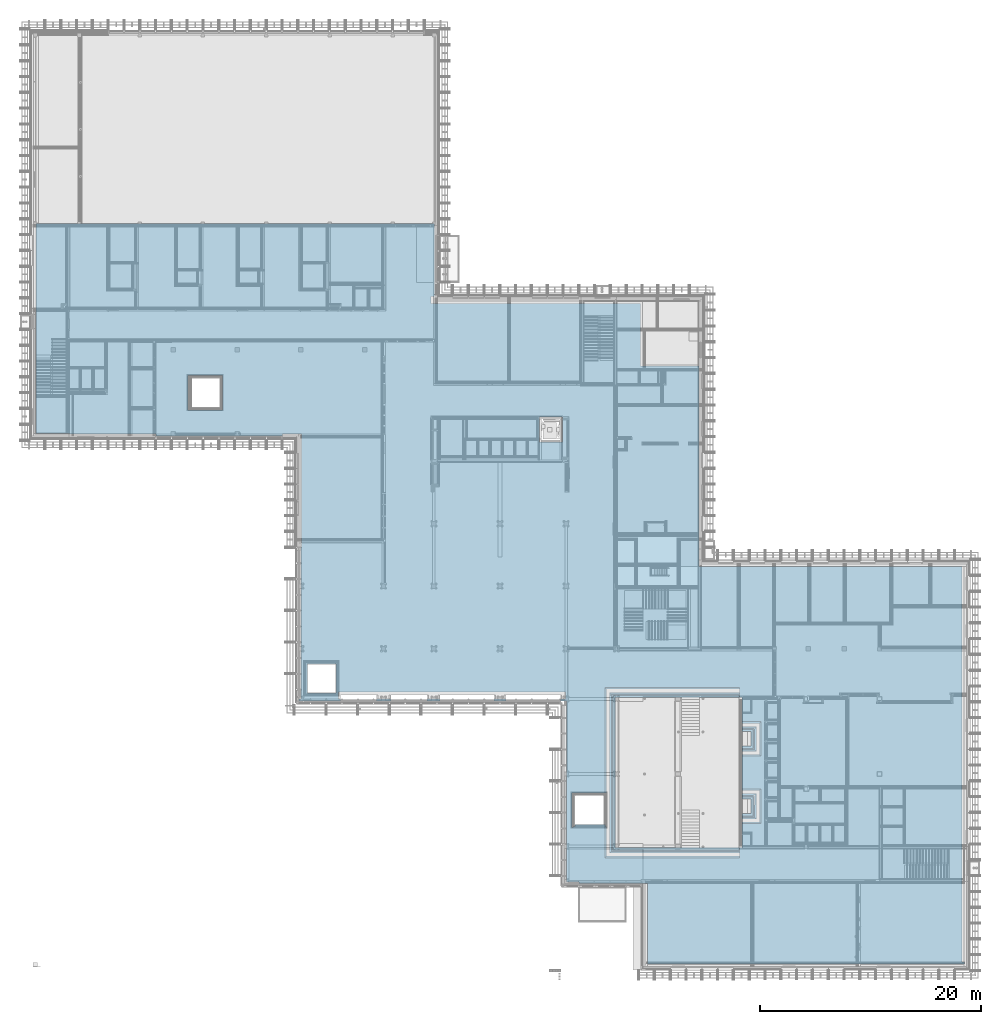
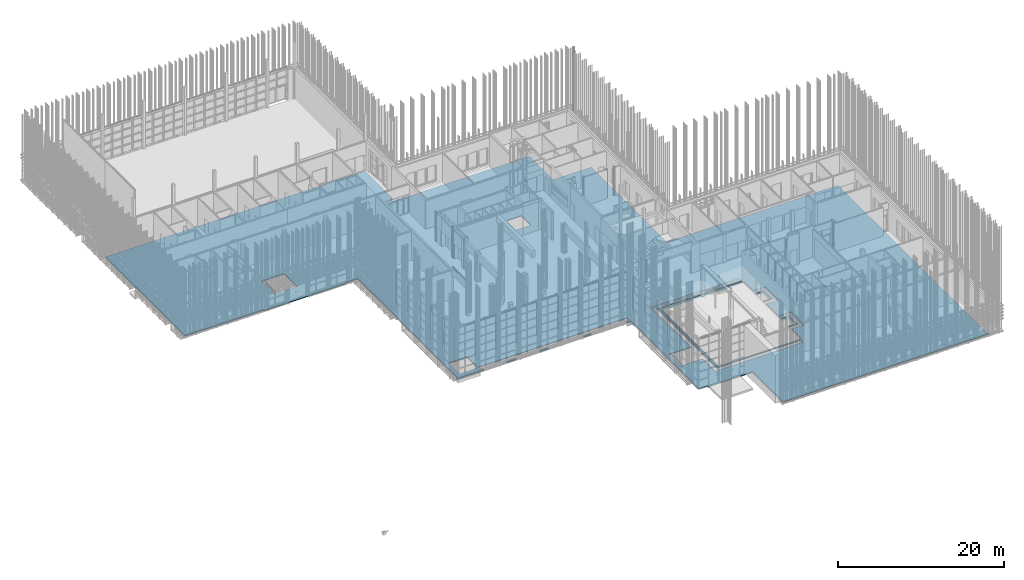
# One storey, part 169 of 260: 1 building element part, 1 element without a shape of its own.
"""IFC2X3 building model written with IfcOpenShell, lengths in millimetres."""

from ifc_helpers import new_model, entity, si_unit, converted_unit, derived_unit, money_unit, direction, frame, origin_with_axes, place, context, subcontext, project, spatial, faceted_brep, material, type_object, element, aggregate, save


model = new_model("IFC2X3")

# Units and contexts
model_context = context("Model", 3, precision=0.01, world=origin_with_axes(), true_north=direction((0.0, 1.0)))
body_context = subcontext(model_context, "Body", "Model", "MODEL_VIEW")
ifc_project = project(units=[si_unit("LENGTHUNIT", "METRE", prefix="MILLI"), si_unit("AREAUNIT", "SQUARE_METRE"), si_unit("VOLUMEUNIT", "CUBIC_METRE"), converted_unit("PLANEANGLEUNIT", "DEGREE", entity("IfcPlaneAngleMeasure", 0.0174532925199), si_unit("PLANEANGLEUNIT", "RADIAN"), dimensions=[0, 0, 0, 0, 0, 0, 0]), money_unit("EUR"), converted_unit("TIMEUNIT", "Year", entity("IfcTimeMeasure", 31556926.0), si_unit("TIMEUNIT", "SECOND"), dimensions=[0, 0, 1, 0, 0, 0, 0]), si_unit("MASSUNIT", "GRAM", prefix="KILO"), si_unit("THERMODYNAMICTEMPERATUREUNIT", "DEGREE_CELSIUS"), si_unit("LUMINOUSINTENSITYUNIT", "LUMEN"), si_unit("ENERGYUNIT", "JOULE", prefix="MEGA"), derived_unit("THERMALCONDUCTANCEUNIT", [(si_unit("POWERUNIT", "WATT"), 1), (si_unit("LENGTHUNIT", "METRE"), -1), (si_unit("THERMODYNAMICTEMPERATUREUNIT", "KELVIN"), -1)]), derived_unit("SPECIFICHEATCAPACITYUNIT", [(si_unit("ENERGYUNIT", "JOULE"), 1), (si_unit("MASSUNIT", "GRAM", prefix="KILO"), -1), (si_unit("THERMODYNAMICTEMPERATUREUNIT", "KELVIN"), -1)]), derived_unit("MASSDENSITYUNIT", [(si_unit("MASSUNIT", "GRAM", prefix="KILO"), 1), (si_unit("VOLUMEUNIT", "CUBIC_METRE"), -1)])], contexts=[model_context])

# Site, building, storey
site_placement = place(None, origin_with_axes())
site = spatial("IfcSite", under=ifc_project, at=site_placement, Name="Kolde pst 67a", CompositionType="ELEMENT")
building_placement = place(site_placement, origin_with_axes())
building = spatial("IfcBuilding", under=site, at=building_placement, Name="Riigigümnaasium", CompositionType="ELEMENT")
storey_placement = place(building_placement, origin_with_axes())
storey = spatial("IfcBuildingStorey", under=building, at=storey_placement, Name="1. korrus", CompositionType="ELEMENT", Elevation=0.0)

# Slab, building element part
slab_type = type_object("IfcSlabType", Name="PP-RBM-10/1_EPS 200 500", PredefinedType="NOTDEFINED")
slab_placement = place(storey_placement, frame((266.322784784, 67249.9971514, 0.0), z_axis=(0.0, 0.0, 1.0), x_axis=(1.0, 0.0, 0.0)))
slab = element("IfcSlab", 1, at=slab_placement, inside=storey, type_object=slab_type, Name="Põrand pinnasel", PredefinedType="NOTDEFINED")
ifc_material = material(Name="_TÄIDE - tasandus-/tugevduskiht, pinnasesse tambitud killustik E=80MPa, fr 16/32")
building_element_part_placement = place(slab_placement, origin_with_axes())
building_element_part = element("IfcBuildingElementPart", 2, at=building_element_part_placement, material=ifc_material, Name="_TÄIDE - tasandus-/tugevduskiht, pinnasesse tambitud killustik E=80MPa, fr 16/32", context=body_context, shape_type="Brep", body=[
    faceted_brep([(30816.9513198, -43209.7267557, -500.2), (30816.9513198, -43000.0581823, -500.2), (30940.6848933, -43000.0595942, -500.2), (30940.6848933, -43000.02631, -500.2), (31926.6750961, -43000.0263096, -500.2), (31926.6750961, -43000.0708452, -500.2), (32076.6750961, -43000.0725568, -500.2), (32076.6750961, -43000.0263096, -500.2), (32102.9415226, -43000.0263096, -500.2), (32102.9415226, -43209.7267557, -500.2), (30816.9513198, -43209.7267557, -350.2), (30816.9513198, -43000.0581823, -350.2), (30940.6848933, -43000.0595942, -350.2), (30940.6848933, -43000.0263021, -350.2), (31926.6750961, -43000.0263021, -350.2), (31926.6750961, -43000.0708452, -350.2), (32076.6750961, -43000.0725568, -350.2), (32076.6750961, -43000.0263021, -350.2), (32102.9415226, -43000.0263021, -350.2), (32102.9415226, -43209.7267557, -350.2)], [[[0, 1, 2, 3, 4, 5, 6, 7, 8, 9]], [[1, 0, 10, 11]], [[2, 1, 11, 12]], [[2, 12, 13, 3]], [[4, 3, 13, 14]], [[15, 5, 4, 14]], [[6, 5, 15, 16]], [[6, 16, 17, 7]], [[8, 7, 17, 18]], [[19, 9, 8, 18]], [[0, 9, 19, 10]], [[11, 10, 19, 18, 17, 16, 15, 14, 13, 12]]]),
    faceted_brep([(23799.9457899, -43209.7267572, -500.2), (27557.7759921, -43209.7267572, -500.2), (27557.7759921, -43209.7267572, -350.2), (23799.9457899, -43209.7267572, -350.2), (23799.9460972, -42999.9781126, -500.2), (23973.6799494, -42999.980095, -500.2), (23973.6799494, -29299.5005252, -500.2), (23999.9463759, -29299.500562, -500.2), (23999.9463759, -19050.0166275, -500.2), (22288.5650026, -19050.0163206, -500.2), (22288.5650026, -19210.0163206, -500.2), (10868.5385943, -19210.0163206, -500.2), (10868.5385943, -19050.0164764, -500.2), (2999.88406448, -19050.0165838, -500.2), (2999.88406628, -19009.9992035, -500.2), (0.0, -19010.7371507, -500.2), (0.0, 0.0, -500.2), (36039.9429015, 0.0, -500.2), (36039.9416692, -6609.939523, -500.2), (35713.7338936, -6609.939523, -500.2), (35713.7338936, -7209.939523, -500.2), (54687.6592908, -7209.939523, -500.2), (54687.6592908, -12882.9970931, -500.2), (54687.6592908, -12892.9970931, -500.2), (59999.9377357, -12892.9970931, -500.2), (59999.9377357, -31009.9974516, -500.2), (83773.7339872, -31009.9974516, -500.2), (83773.7339872, -66810.0545954, -500.2), (83999.9167207, -66810.0545954, -500.2), (83999.9167207, -67009.9971514, -500.2), (55329.9241436, -67009.9971514, -500.2), (55329.9251795, -59729.9852703, -500.2), (49105.2284207, -59729.9962674, -500.2), (49105.2303604, -59560.0076119, -500.2), (47983.4761046, -59559.9948118, -500.2), (47983.6626713, -43209.9991185, -500.2), (47799.9291214, -43209.997022, -500.2), (47436.9477703, -43209.9971514, -500.2), (47436.9477703, -43000.0263045, -500.2), (47902.308394, -43000.0263043, -500.2), (47902.308394, -42400.2966909, -500.2), (27368.5095656, -42400.2966951, -500.2), (27368.5095656, -43000.0263112, -500.2), (27557.7759921, -43000.0263111, -500.2), (52419.9377639, -56470.0352098, -500.2), (63889.4805108, -56470.0352098, -500.2), (63889.4805108, -54145.6599735, -500.2), (65439.3150862, -54145.6203249, -500.2), (65439.2299235, -51314.3733249, -500.2), (63889.4803814, -51314.4130564, -500.2), (63889.4798288, -48045.5734855, -500.2), (65439.1317188, -48045.5269608, -500.2), (65439.0466277, -45214.3161328, -500.2), (63889.4797546, -45214.3626397, -500.2), (63889.4805108, -42900.0006175, -500.2), (52419.9377639, -42900.0006175, -500.2), (63641.1735702, -56811.3980973, -500.195766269), (52052.3097143, -56811.4021149, -500.195872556), (52052.3097143, -42558.6301194, -500.195872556), (63505.8254222, -42558.6325234, -500.198297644), (63507.7266317, -42558.6325233, -500.198297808), (63507.7549949, -42558.6329141, -500.198690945), (63508.4260955, -42558.6323427, -500.197786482), (63508.4423642, -42558.6328026, -500.198686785), (63508.46441, -42558.6329141, -500.19869098), (63508.4992122, -42558.6324964, -500.198326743), (63508.5190036, -42558.6322722, -500.197724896), (63663.580611, -42558.6338685, -500.199621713), (63663.580611, -42134.370178, -500.2), (51628.0444757, -42134.37018, -500.2), (51628.0444757, -57235.6620487, -500.2), (63663.580611, -57235.6620562, -500.2), (63663.580611, -56811.3968165, -500.195872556), (45534.9291024, -17479.9971915, -500.2), (45534.9291024, -19779.9971915, -500.2), (47634.9291054, -19779.9971915, -500.2), (47634.9291054, -17479.9971915, -500.2), (48475.6670287, -54648.0161939, -500.2), (48485.6670287, -54648.0161939, -500.2), (48485.6670287, -54638.0161939, -500.2), (48585.6670287, -54638.0161939, -500.2), (48585.6670287, -54538.0161939, -500.2), (48588.6670287, -54538.0161939, -500.2), (48588.6670287, -54535.0161939, -500.2), (48748.6670287, -54535.0161939, -500.2), (48748.6670287, -51775.0161939, -500.2), (48774.9334552, -51775.0161939, -500.2), (48774.9334552, -54375.0161939, -500.2), (51348.6670287, -54375.0161939, -500.2), (51374.9334552, -54375.0161939, -500.2), (51508.6670287, -54375.0161939, -500.2), (51508.6670287, -54535.0161939, -500.2), (51511.6670287, -54535.0161939, -500.2), (51511.6670287, -54538.0161939, -500.2), (51611.6670287, -54538.0161939, -500.2), (51611.6670287, -54638.0161939, -500.2), (51621.6670287, -54638.0161939, -500.2), (51621.6670287, -51502.0161939, -500.2), (51611.6670287, -51502.0161939, -500.2), (48485.6670287, -51502.0161939, -500.2), (48475.6670287, -51502.0161939, -500.2), (24550.0004112, -39859.9971514, -500.2), (24550.0004112, -42459.9971514, -500.2), (27150.0004112, -42459.9971514, -500.2), (27150.0004112, -39859.9971514, -500.2), (13725.6777342, -16888.0095232, -500.2), (13735.6777342, -16888.0095232, -500.2), (16871.6777342, -16888.0095232, -500.2), (16871.6777342, -16878.0095232, -500.2), (16871.6777342, -13742.0095232, -500.2), (16861.6777342, -13742.0095232, -500.2), (13735.6777342, -13742.0095232, -500.2), (13725.6777342, -13742.0095232, -500.2), (27557.7759921, -43000.0263019, -350.2), (27368.5095656, -43000.0263019, -350.2), (27368.5095656, -42400.296694, -350.2), (47902.308394, -42400.2966898, -350.2), (47902.308394, -43000.0263043, -350.2), (47436.9477703, -43000.0263029, -350.2), (47436.9477703, -43209.9971514, -350.2), (47799.9291214, -43209.997022, -350.2), (47983.6626713, -43209.9991185, -350.2), (47983.4761046, -59559.9948118, -350.2), (49105.2303604, -59560.0076119, -350.2), (49105.2284207, -59729.9962674, -350.2), (55329.9251795, -59729.9852703, -350.2), (55329.9241436, -67009.9971514, -350.2), (83999.9167207, -67009.9971514, -350.2), (83999.9167207, -66810.0545954, -350.2), (83773.7339872, -66810.0545954, -350.2), (83773.7339872, -31009.9974516, -350.2), (59999.9377357, -31009.9974516, -350.2), (59999.9377357, -12892.9970931, -350.2), (54687.6592908, -12892.9970931, -350.2), (54687.6592908, -12882.9970931, -350.2), (54687.6592908, -7209.939523, -350.2), (35713.7338936, -7209.939523, -350.2), (35713.7338936, -6609.939523, -350.2), (36039.9416692, -6609.939523, -350.2), (36039.9429015, 0.0, -350.2), (0.0, 0.0, -350.2), (0.0, -19010.7371507, -350.2), (2999.88406628, -19009.9992035, -350.2), (2999.88406448, -19050.0165838, -350.2), (10868.5385943, -19050.0164764, -350.2), (10868.5385943, -19210.0163206, -350.2), (22288.5650026, -19210.0163206, -350.2), (22288.5650026, -19050.0163206, -350.2), (23999.9463759, -19050.0166275, -350.2), (23999.9463759, -29299.500562, -350.2), (23973.6799494, -29299.5005252, -350.2), (23973.6799494, -42999.980095, -350.2), (23799.9460972, -42999.9781126, -350.2), (63663.580611, -56961.3396845, -350.2), (51902.3668468, -56961.3396781, -350.2), (51902.3668479, -42408.6925531, -350.2), (63663.580611, -42408.6925498, -350.2), (63663.580611, -42899.9970244, -350.2), (63889.4805108, -42900.0006175, -350.2), (63889.4798036, -45064.3626399, -350.2), (65376.9100877, -45064.3179896, -350.200000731), (65589.0421234, -45064.3116254, -350.199995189), (65589.136231, -48195.5224628, -350.199995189), (65377.0041952, -48195.5288306, -350.199995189), (63889.4798542, -48195.5734838, -350.2), (63889.480356, -51164.4130567, -350.2), (65377.0933798, -51164.3749098, -350.200000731), (65589.2254156, -51164.3694738, -350.199995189), (65589.3196021, -54295.616493, -350.199995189), (65377.1875663, -54295.6219223, -350.200000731), (63889.4805108, -54295.6599732, -350.2), (63889.4805108, -56470.0352098, -350.2), (63663.580611, -56470.0352098, -350.2), (45534.9291024, -19779.9971915, -350.2), (45534.9291024, -17479.9971915, -350.2), (47634.9291054, -17479.9971915, -350.2), (47634.9291054, -19779.9971915, -350.2), (48485.6670287, -54648.0161939, -350.2), (48475.6670287, -54648.0161939, -350.2), (48475.6670287, -51502.0161939, -350.2), (48485.6670287, -51502.0161939, -350.2), (51478.0444746, -51502.0161939, -350.2), (51478.0444746, -41984.3701836, -350.199998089), (51690.1765105, -41984.3701836, -350.199998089), (63663.580611, -41984.3701781, -350.200000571), (63663.580611, -42196.5022139, -350.200000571), (63663.580611, -42408.6342468, -350.2), (51902.3085443, -42408.6342472, -350.2), (51902.3085439, -56961.397987, -350.2), (63663.580611, -56961.3979874, -350.2), (63663.580611, -57173.5300203, -350.200000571), (63663.580611, -57385.6620561, -350.200000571), (51690.1765105, -57385.6620506, -350.199998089), (51478.0444746, -57385.6620506, -350.199998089), (51478.0444746, -54375.0161939, -350.199998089), (51374.9334552, -54375.0161939, -350.2), (51348.6670287, -54375.0161939, -350.2), (48774.9334552, -54375.0161939, -350.2), (48774.9334552, -51775.0161939, -350.2), (48748.6670287, -51775.0161939, -350.2), (48748.6670287, -54535.0161939, -350.2), (48588.6670287, -54535.0161939, -350.2), (48588.6670287, -54538.0161939, -350.2), (48585.6670287, -54538.0161939, -350.2), (48585.6670287, -54638.0161939, -350.2), (48485.6670287, -54638.0161939, -350.2), (24550.0004112, -42459.9971514, -350.2), (24550.0004112, -39859.9971514, -350.2), (27150.0004112, -39859.9971514, -350.2), (27150.0004112, -42459.9971514, -350.2), (13735.6777342, -16888.0095232, -350.2), (13725.6777342, -16888.0095232, -350.2), (13725.6777342, -13742.0095232, -350.2), (13735.6777342, -13742.0095232, -350.2), (16861.6777342, -13742.0095232, -350.2), (16871.6777342, -13742.0095232, -350.2), (16871.6777342, -16878.0095232, -350.2), (16871.6777342, -16888.0095232, -350.2), (52419.9377639, -56470.0384111, -500.140794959), (63663.580611, -56470.0416123, -500.140794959), (52419.9377639, -42899.9956197, -500.140794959), (63663.580611, -42899.9906219, -500.140794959), (52419.9377639, -42900.0006175, -350.2), (52419.9377639, -56470.0352098, -350.2), (52052.332482, -56811.374048, -500.140794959), (63663.580611, -56811.3740488, -500.140794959), (52052.3324821, -42558.6581862, -500.140794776), (52393.6649184, -42558.6581862, -500.140794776), (63663.580611, -42558.6581855, -500.140794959), (63663.580611, -42557.8697317, -499.435484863), (63663.580611, -42557.1613936, -498.726869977), (63663.580611, -42556.8759594, -498.441324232), (63663.580611, -42556.8340177, -498.399366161), (51611.6670287, -51502.0161939, -483.822552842), (51621.6670287, -51502.0161939, -493.822552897), (51621.6670287, -54638.0161939, -493.822552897), (51611.6670287, -54638.0161939, -483.822552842), (51611.6670287, -54538.0161939, -483.822552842), (51511.6670287, -54538.0161939, -383.822552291), (51511.6670287, -54535.0161939, -383.822552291), (51508.6670287, -54535.0161939, -380.822552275), (51508.6670287, -54375.0161939, -380.822552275), (63641.1735702, -56811.3980973, -500.195766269), (52052.332482, -56811.4571925, -500.140794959), (52093.7120911, -56911.5165201, -400.040775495), (51952.190006, -56911.5165227, -400.040772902), (52050.6238481, -56813.0879114, -498.509412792), (52050.1328662, -42556.4539271, -498.018255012), (51952.1492523, -42458.4749572, -400.000004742), (51952.1900059, -42600.0377907, -400.040772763), (51952.1492523, -42691.6723651, -400.000004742), (51952.1492523, -42599.9970227, -400.000004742), (63505.8254222, -42558.6325234, -500.198297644), (63509.5618512, -42557.6235007, -499.188946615), (63663.580611, -42691.672371, -400.000003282), (63663.580611, -42600.0377946, -400.040775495), (63663.580611, -42599.997022, -400.000002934), (63663.580611, -56770.0352098, -400.0), (63663.580611, -56769.9944359, -400.040775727), (63663.580611, -56678.3598632, -400.000003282), (52393.6649184, -56470.0416123, -500.140794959), (52393.6649184, -42899.9906219, -500.140794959), (52393.6717284, -42899.9970244, -350.2), (52393.6717964, -56470.0352098, -350.2), (52093.7187549, -42600.0377907, -400.040772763), (52093.6713204, -42691.6723651, -400.000004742), (52093.6713209, -42599.9970191, -400.0), (52393.6691713, -42691.6723651, -400.000004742), (52185.3466676, -42691.6723651, -400.000004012), (52185.3466676, -42599.9970224, -400.000003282), (52393.6713209, -42599.9970191, -400.0), (52093.6713209, -56770.0352151, -400.0), (52093.7120945, -56769.9944396, -400.040776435), (52393.6691696, -56769.9944396, -400.040776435), (52185.3466676, -56770.0352118, -400.000003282), (52393.6691713, -56678.3598691, -400.000004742), (52185.3466676, -56678.3598691, -400.000004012)], [[[0, 1, 2, 3]], [[1, 0, 4, 5, 6, 7, 8, 9, 10, 11, 12, 13, 14, 15, 16, 17, 18, 19, 20, 21, 22, 23, 24, 25, 26, 27, 28, 29, 30, 31, 32, 33, 34, 35, 36, 37, 38, 39, 40, 41, 42, 43], [44, 45, 46, 47, 48, 49, 50, 51, 52, 53, 54, 55], [56, 57, 58, 59, 60, 61, 62, 63, 64, 65, 66, 67, 68, 69, 70, 71, 72], [73, 74, 75, 76], [77, 78, 79, 80, 81, 82, 83, 84, 85, 86, 87, 88, 89, 90, 91, 92, 93, 94, 95, 96, 97, 98, 99, 100], [101, 102, 103, 104], [105, 106, 107, 108, 109, 110, 111, 112]], [[2, 1, 43, 113]], [[3, 2, 113, 114, 115, 116, 117, 118, 119, 120, 121, 122, 123, 124, 125, 126, 127, 128, 129, 130, 131, 132, 133, 134, 135, 136, 137, 138, 139, 140, 141, 142, 143, 144, 145, 146, 147, 148, 149, 150, 151, 152], [153, 154, 155, 156, 157, 158, 159, 160, 161, 162, 163, 164, 165, 166, 167, 168, 169, 170, 171, 172], [173, 174, 175, 176], [177, 178, 179, 180, 181, 182, 183, 184, 185, 186, 187, 188, 189, 190, 191, 192, 193, 194, 195, 196, 197, 198, 199, 200, 201, 202, 203, 204, 205], [206, 207, 208, 209], [210, 211, 212, 213, 214, 215, 216, 217]], [[0, 3, 152, 4]], [[5, 4, 152, 151]], [[6, 5, 151, 150]], [[7, 6, 150, 149]], [[8, 7, 149, 148]], [[9, 8, 148, 147]], [[10, 9, 147, 146]], [[11, 10, 146, 145]], [[12, 11, 145, 144]], [[13, 12, 144, 143]], [[14, 13, 143, 142]], [[15, 14, 142, 141]], [[15, 141, 140, 16]], [[17, 16, 140, 139]], [[18, 17, 139, 138]], [[19, 18, 138, 137]], [[20, 19, 137, 136]], [[20, 136, 135, 21]], [[22, 21, 135, 134]], [[23, 22, 134, 133]], [[24, 23, 133, 132]], [[25, 24, 132, 131]], [[25, 131, 130, 26]], [[129, 27, 26, 130]], [[28, 27, 129, 128]], [[29, 28, 128, 127]], [[126, 30, 29, 127]], [[31, 30, 126, 125]], [[32, 31, 125, 124]], [[33, 32, 124, 123]], [[34, 33, 123, 122]], [[34, 122, 121, 35]], [[36, 35, 121, 120]], [[37, 36, 120, 119]], [[38, 37, 119, 118]], [[39, 38, 118, 117]], [[39, 117, 116, 40]], [[115, 41, 40, 116]], [[114, 42, 41, 115]], [[43, 42, 114, 113]], [[44, 218, 219, 172, 171, 45]], [[46, 45, 171, 170]], [[47, 46, 170, 169, 168]], [[47, 168, 167, 48]], [[165, 49, 48, 167, 166]], [[50, 49, 165, 164]], [[50, 164, 163, 162, 51]], [[51, 162, 161, 52]], [[159, 53, 52, 161, 160]], [[53, 159, 158, 54]], [[220, 55, 54, 158, 157, 221]], [[218, 44, 55, 220, 222, 223]], [[224, 57, 56, 72, 225]], [[57, 224, 226, 58]], [[60, 59, 58, 226, 227, 228, 66, 65, 64, 63, 62, 61]], [[228, 67, 66]], [[68, 67, 229, 230, 231, 232, 186, 185, 184]], [[69, 68, 184, 183, 182]], [[193, 70, 69, 182, 181, 233, 234, 235, 236, 237, 238, 239, 240, 241, 194]], [[71, 70, 193, 192, 191]], [[72, 71, 191, 190, 189]], [[74, 73, 174, 173]], [[75, 74, 173, 176]], [[76, 75, 176, 175]], [[73, 76, 175, 174]], [[78, 77, 178, 177]], [[79, 78, 177, 205]], [[80, 79, 205, 204]], [[81, 80, 204, 203]], [[82, 81, 203, 202]], [[83, 82, 202, 201]], [[84, 83, 201, 200]], [[84, 200, 199, 85]], [[86, 85, 199, 198]], [[197, 87, 86, 198]], [[88, 87, 197, 196]], [[89, 88, 196, 195]], [[90, 89, 195, 194, 241]], [[91, 90, 241, 240]], [[92, 91, 240, 239]], [[93, 92, 239, 238]], [[94, 93, 238, 237]], [[95, 94, 237, 236]], [[96, 95, 236, 235]], [[97, 96, 235, 234]], [[98, 97, 234, 233]], [[99, 98, 233, 181, 180]], [[100, 99, 180, 179]], [[178, 77, 100, 179]], [[102, 101, 207, 206]], [[103, 102, 206, 209]], [[104, 103, 209, 208]], [[101, 104, 208, 207]], [[106, 105, 211, 210]], [[107, 106, 210, 217]], [[107, 217, 216, 108]], [[109, 108, 216, 215]], [[110, 109, 215, 214]], [[111, 110, 214, 213]], [[112, 111, 213, 212]], [[211, 105, 112, 212]], [[242, 243, 244, 245, 154, 153, 72]], [[245, 246, 247, 248, 155, 154], [249, 250, 251]], [[247, 252, 253, 232, 156, 155, 248]], [[221, 157, 156, 232, 231, 230, 229, 67, 228], [254, 255, 256]], [[225, 72, 153, 172, 219], [257, 258, 259]], [[252, 247, 187, 186, 232, 253]], [[246, 188, 187, 247]], [[243, 242, 72, 189, 188, 246]], [[218, 260, 261, 220, 221, 228, 227, 226, 224, 225, 219]], [[220, 261, 262, 222]], [[263, 223, 222, 262]], [[260, 218, 223, 263]], [[244, 243, 246, 245]], [[249, 264, 265, 250]], [[250, 265, 266, 251]], [[264, 249, 251, 266]], [[267, 268, 264, 255, 254]], [[264, 266, 269, 270, 256, 255]], [[268, 267, 254, 256, 270, 269]], [[271, 272, 273, 258, 257, 274]], [[273, 275, 259, 258]], [[276, 274, 257, 259, 275]], [[260, 263, 262, 261]], [[272, 271, 265, 264]], [[271, 274, 276, 268, 269, 266, 265]], [[276, 272, 264, 268]], [[273, 272, 276, 275]]]),
    faceted_brep([(35366.9477703, -43000.1101015, -500.2), (35366.9477703, -43209.7267557, -500.2), (35366.9477703, -43209.7267557, -350.2), (35366.9477703, -43000.1101015, -350.2), (35490.6813438, -43000.1115134, -500.2), (35490.6813438, -43000.0263085, -500.2), (36356.6715466, -43000.0263082, -500.2), (36356.6715466, -43000.1213951, -500.2), (36506.6715466, -43000.1231067, -500.2), (36506.6715466, -43000.0263081, -500.2), (36532.9379731, -43000.0263081, -500.2), (36532.9379731, -43209.7267557, -500.2), (36532.9379731, -43209.7267557, -350.2), (36532.9379731, -43000.0263023, -350.2), (36506.6715466, -43000.0263023, -350.2), (36506.6715466, -43000.1231067, -350.2), (36356.6715466, -43000.1213951, -350.2), (36356.6715466, -43000.0263023, -350.2), (35490.6813438, -43000.0263023, -350.2), (35490.6813438, -43000.1115134, -350.2)], [[[0, 1, 2, 3]], [[1, 0, 4, 5, 6, 7, 8, 9, 10, 11]], [[2, 1, 11, 12]], [[3, 2, 12, 13, 14, 15, 16, 17, 18, 19]], [[4, 0, 3, 19]], [[4, 19, 18, 5]], [[6, 5, 18, 17]], [[16, 7, 6, 17]], [[7, 16, 15, 8]], [[9, 8, 15, 14]], [[10, 9, 14, 13]], [[11, 10, 13, 12]]]),
    faceted_brep([(42530.9379731, -43209.9971514, -500.2), (41436.9477703, -43209.9971514, -500.2), (41436.9477703, -43000.1793652, -500.2), (41560.6813438, -43000.1807771, -500.2), (41560.6813438, -43000.0263064, -500.2), (42354.6715466, -43000.0263062, -500.2), (42354.6715466, -43000.1898371, -500.2), (42504.6715466, -43000.1915488, -500.2), (42504.6715466, -43000.0263061, -500.2), (42530.9379731, -43000.0263061, -500.2), (42530.9379731, -43209.9971514, -350.2), (41436.9477703, -43209.9971514, -350.2), (41436.9477703, -43000.1793652, -350.2), (41560.6813438, -43000.1807771, -350.2), (41560.6813438, -43000.0263026, -350.2), (42354.6715466, -43000.0263026, -350.2), (42354.6715466, -43000.1898371, -350.2), (42504.6715466, -43000.1915488, -350.2), (42504.6715466, -43000.0263026, -350.2), (42530.9379731, -43000.0263026, -350.2)], [[[0, 1, 2, 3, 4, 5, 6, 7, 8, 9]], [[1, 0, 10, 11]], [[2, 1, 11, 12]], [[3, 2, 12, 13]], [[4, 3, 13, 14]], [[5, 4, 14, 15]], [[6, 5, 15, 16]], [[7, 6, 16, 17]], [[8, 7, 17, 18]], [[9, 8, 18, 19]], [[0, 9, 19, 10]], [[11, 10, 19, 18, 17, 16, 15, 14, 13, 12]]]),
    faceted_brep([(63889.4796994, -47279.9530444, -500.140792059), (63889.4796994, -47279.9474523, -500.2), (63889.4797571, -47621.308249, -500.195869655), (63889.4797571, -47621.2854809, -500.140792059), (64673.4882687, -47279.9238706, -500.140792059), (64699.838281, -47279.923078, -500.140791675), (64699.838281, -47279.923078, -500.2), (63889.4795044, -45979.9902948, -500.2), (63889.4796159, -45638.6278769, -500.195869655), (65014.7994448, -45638.5940974, -500.195869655), (65014.8537324, -47621.2797626, -500.195872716), (64699.7991789, -45979.9659208, -500.2), (65014.8309625, -47621.2516995, -500.140792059), (63889.4796159, -45638.6506449, -500.140792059), (63889.4795044, -45979.9830815, -500.140792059), (64673.4492021, -45980.0722648, -500.140792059), (64699.7991789, -45980.0753894, -500.140792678), (65014.7713763, -45638.6168647, -500.140795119), (64673.4389401, -45638.627112, -500.140792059)], [[[0, 1, 2, 3]], [[1, 0, 4, 5, 6]], [[7, 8, 9, 10, 2, 1, 6, 11]], [[3, 2, 10, 12]], [[13, 14, 15, 16, 5, 4, 0, 3, 12, 17, 18]], [[6, 5, 16, 11]], [[7, 14, 13, 8]], [[8, 13, 18, 17, 9]], [[12, 10, 9, 17]], [[14, 7, 11, 16, 15]]]),
    faceted_brep([(63889.4797501, -47579.9466432, -399.999997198), (63889.4797346, -47488.2712954, -400.000000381), (63889.4797501, -47579.9058692, -400.040772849), (64881.8155359, -47579.9168531, -400.000003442), (64881.8127806, -47488.2415134, -400.000002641), (64673.4902771, -47488.2513656, -400.000003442), (64673.4930327, -47579.8823373, -400.040773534), (64973.4501074, -47579.8733342, -400.040775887), (64973.4908825, -47579.9141031, -400.000001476), (64973.4337822, -45679.9569465, -400.000003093), (64881.7584333, -45679.9596987, -400.000003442), (64881.7611885, -45771.6350383, -400.000002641), (64973.393011, -45679.9977155, -400.040776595), (63889.4796024, -45680.0302577, -400.040772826), (63889.4796024, -45679.9894838, -399.999997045), (64673.43378, -45679.9659511, -399.999996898), (64673.4359326, -45680.006725, -400.040772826), (63889.4795725, -45771.6646071, -400.000000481), (64673.4365353, -45771.6412977, -400.000000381)], [[[0, 1, 2]], [[1, 0, 3, 4, 5]], [[2, 1, 5, 6]], [[0, 2, 6, 7, 8, 3]], [[4, 3, 8, 9, 10, 11]], [[6, 5, 4, 7]], [[8, 7, 12, 9]], [[13, 14, 15, 10, 9, 12, 16]], [[14, 17, 18, 11, 10, 15]], [[7, 4, 11, 12]], [[13, 17, 14]], [[18, 16, 12, 11]], [[17, 13, 16, 18]]]),
    faceted_brep([(63889.4797824, -47771.2511137, -350.2), (63889.4797571, -47621.308249, -500.195869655), (63889.4797824, -47771.3094168, -350.2), (65164.8011061, -47771.2128249, -350.2), (65114.9764529, -47721.3911681, -400.040770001), (64973.4543701, -47721.3954163, -400.040770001), (65014.8309663, -47621.3348409, -500.140795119), (63893.0854428, -47621.3093913, -500.195693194), (65017.9701485, -47624.3958991, -497.078397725), (65018.103753, -47624.5294342, -496.944804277), (65164.8594091, -47771.2711349, -350.2), (65164.7908062, -45488.5884244, -350.2), (63889.4796649, -45488.626709, -350.2), (63889.4796649, -45488.6850121, -350.2), (65164.7325043, -45488.6467375, -350.2), (65114.910846, -45538.4713859, -400.040770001), (65026.8472334, -45626.535608, -488.138161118), (63889.4796159, -45638.6278769, -500.195869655), (65009.8091841, -45626.5357632, -488.137804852), (64973.3887576, -45538.4756395, -400.040776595)], [[[0, 1, 2]], [[1, 0, 3, 4, 5, 6, 7]], [[2, 1, 7, 6, 8, 9, 10]], [[0, 2, 10, 11, 12, 13, 14, 3]], [[9, 4, 3, 14, 15, 16]], [[6, 5, 4, 9, 8]], [[10, 9, 16, 11]], [[17, 12, 11, 16, 18]], [[17, 13, 12]], [[13, 17, 18, 19, 15, 14]], [[18, 16, 15, 19]]]),
    faceted_brep([(63889.4805108, -53721.3962864, -500.199618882), (63889.4805108, -53871.3959042, -350.2), (63889.4805108, -53871.3376011, -350.2), (63905.5626644, -53721.3955275, -500.198778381), (63909.334933, -53721.3953495, -500.198581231), (63910.1087268, -53721.3953129, -500.19854079), (65010.9388809, -53731.2819049, -490.281307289), (65025.0207308, -53731.3538187, -490.209003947), (65088.0765764, -53794.3986493, -427.163879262), (65165.042772, -53871.363281, -350.2), (63889.4804278, -51588.6771258, -350.2), (63889.4804278, -51588.7354289, -350.2), (65164.9158057, -51588.7027272, -350.2), (65164.9844666, -53871.3049708, -350.2), (65164.9741088, -51588.6444165, -350.2), (65115.1598122, -53821.4830927, -400.040770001), (64973.6377238, -53821.4867071, -400.040776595), (65027.3923562, -51735.1890519, -487.776500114), (65027.4291746, -51730.2014503, -487.739531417), (65027.435953, -51726.1855788, -487.732588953), (63889.4804531, -51738.6782939, -500.195869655), (65009.9924416, -51726.5909599, -488.137687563), (64973.5720613, -51638.5307941, -400.040776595), (65115.0941498, -51638.5271597, -400.040770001)], [[[0, 1, 2]], [[0, 3, 4, 5, 6, 7, 8, 9, 1]], [[10, 11, 12, 13, 2, 1, 9, 14]], [[3, 0, 2, 13, 15, 16, 6, 5, 4]], [[6, 16, 15, 7]], [[8, 7, 17, 18, 19, 14, 9]], [[11, 10, 20]], [[11, 20, 21, 22, 23, 12]], [[7, 15, 13, 12, 23, 19, 18, 17]], [[20, 10, 14, 19, 21]], [[22, 21, 19, 23]]]),
    faceted_brep([(63889.4805108, -53588.3577827, -400.000000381), (63889.4805108, -53680.0331294, -399.999997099), (64673.6742383, -53680.0130718, -399.999997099), (64881.9988916, -53680.0077424, -400.000003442), (64881.996134, -53588.3324027, -400.000002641), (64673.6714807, -53588.3377252, -400.000000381), (63889.4805108, -53679.9923555, -400.040772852), (64673.6763884, -53679.9722979, -400.040772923), (64973.6334668, -53679.9646311, -400.040776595), (64973.6742405, -53680.0053979, -400.000003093), (64973.6170896, -51780.0121012, -400.000003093), (64881.9417406, -51780.0144524, -400.000003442), (64881.9444982, -51871.689792, -400.000002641), (64973.5763182, -51780.0528701, -400.040776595), (63889.4804601, -51780.0806745, -400.040772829), (63889.4804601, -51780.0399006, -399.999997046), (64673.6170873, -51780.0197933, -399.999996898), (64673.6192399, -51780.0605671, -400.040772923), (63889.4804756, -51871.7152472, -400.000000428), (64673.6198449, -51871.6951399, -400.000000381)], [[[0, 1, 2, 3, 4, 5]], [[6, 1, 0]], [[1, 6, 7, 8, 9, 3, 2]], [[3, 9, 10, 11, 12, 4]], [[8, 7, 5, 4]], [[6, 0, 5, 7]], [[9, 8, 13, 10]], [[14, 15, 16, 11, 10, 13, 17]], [[15, 18, 19, 12, 11, 16]], [[4, 12, 13, 8]], [[14, 18, 15]], [[19, 17, 13, 12]], [[18, 14, 17, 19]]]),
    faceted_brep([(63889.4805108, -53721.3962864, -500.199618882), (63905.5626644, -53721.3955275, -500.198778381), (63909.334933, -53721.3953495, -500.198581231), (63910.1087268, -53721.3953129, -500.19854079), (65015.0423904, -53721.3659472, -500.195869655), (65015.0143205, -53721.3431814, -500.140795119), (64673.6818842, -53721.3519106, -500.140792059), (63889.4805108, -53721.3719683, -500.140792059), (63889.4805108, -53380.0354382, -500.2), (64699.9316408, -53380.0110601, -500.2), (64699.8925374, -52080.0108444, -500.2), (63889.4805108, -52080.0352212, -500.2), (63889.4804531, -51738.6782939, -500.195869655), (65014.9827512, -51738.6494331, -500.195869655), (65014.9546827, -51738.6722003, -500.140795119), (64673.6222464, -51738.6809542, -500.140792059), (63889.4804531, -51738.7010616, -500.140792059), (63889.4805108, -52080.0334982, -500.140792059), (64673.6325123, -52079.9746155, -500.140792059), (64699.8925374, -52079.969217, -500.140792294), (64699.9316408, -53379.9090141, -500.140792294), (64673.6716171, -53379.9141739, -500.140792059), (63889.4805108, -53380.0395318, -500.140792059)], [[[0, 1, 2, 3, 4, 5, 6, 7]], [[1, 0, 8, 9, 10, 11, 12, 13, 4, 3, 2]], [[5, 4, 13, 14]], [[7, 6, 5, 14, 15, 16, 17, 18, 19, 20, 21, 22]], [[0, 7, 22, 8]], [[8, 22, 21, 20, 9]], [[9, 20, 19, 10]], [[17, 11, 10, 19, 18]], [[11, 17, 16, 12]], [[12, 16, 15, 14, 13]]]),
    faceted_brep([(65018.103753, -47624.5294342, -496.944804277), (65017.5533922, -47623.9791359, -497.495342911), (65026.8472334, -45626.535608, -488.138161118)], [[[0, 1, 2]], [[1, 0, 2]]]),
    faceted_brep([(14024.9441607, -14015.0095232, -500.2), (14024.9441607, -14015.0095232, -350.2), (14024.9441607, -16615.0095232, -350.2), (14024.9441607, -16615.0095232, -500.2), (13998.6777342, -14015.0095232, -350.2), (13998.6777342, -14015.0095232, -500.2), (13998.6777342, -16615.0095232, -350.2), (13998.6777342, -16615.0095232, -500.2)], [[[0, 1, 2, 3]], [[4, 1, 0, 5]], [[1, 4, 6, 2]], [[6, 7, 3, 2]], [[5, 0, 3, 7]], [[4, 5, 7, 6]]]),
])
aggregate(slab, [building_element_part])

save(model, "model.ifc")
